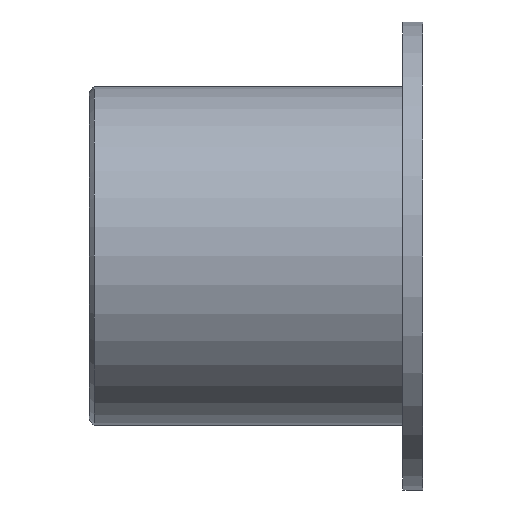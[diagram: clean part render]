
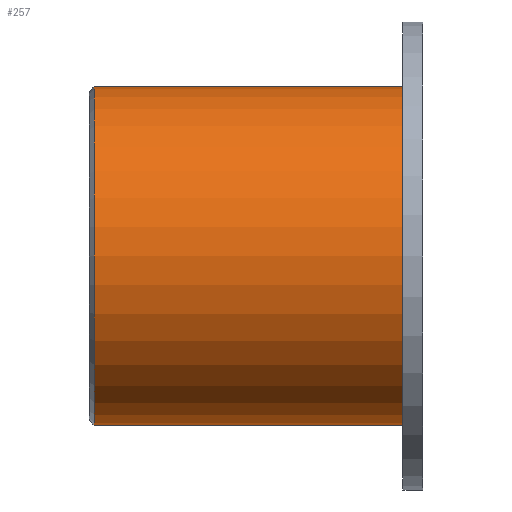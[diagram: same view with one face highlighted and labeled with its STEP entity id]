
A CAD part, front view. The second image highlights one B-rep face of the part: STEP entity #257.
In plain terms, the highlighted cylindrical face has radius 17 mm (diameter 34 mm), a full revolution.
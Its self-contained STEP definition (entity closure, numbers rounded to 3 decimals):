
#34=CYLINDRICAL_SURFACE('',#279,17.);
#47=FACE_BOUND('',#79,.T.);
#64=FACE_OUTER_BOUND('',#78,.T.);
#78=EDGE_LOOP('',(#191));
#79=EDGE_LOOP('',(#192));
#106=CIRCLE('',#277,17.);
#108=CIRCLE('',#280,17.);
#131=VERTEX_POINT('',#414);
#133=VERTEX_POINT('',#419);
#156=EDGE_CURVE('',#131,#131,#106,.T.);
#158=EDGE_CURVE('',#133,#133,#108,.T.);
#191=ORIENTED_EDGE('',*,*,#158,.T.);
#192=ORIENTED_EDGE('',*,*,#156,.F.);
#257=ADVANCED_FACE('',(#64,#47),#34,.T.);
#277=AXIS2_PLACEMENT_3D('',#415,#322,#323);
#279=AXIS2_PLACEMENT_3D('',#418,#326,#327);
#280=AXIS2_PLACEMENT_3D('',#420,#328,#329);
#322=DIRECTION('center_axis',(-1.,0.,0.));
#323=DIRECTION('ref_axis',(0.,0.,-1.));
#326=DIRECTION('center_axis',(1.,0.,0.));
#327=DIRECTION('ref_axis',(0.,0.,-1.));
#328=DIRECTION('center_axis',(-1.,0.,0.));
#329=DIRECTION('ref_axis',(0.,0.,-1.));
#414=CARTESIAN_POINT('',(0.5,0.,17.));
#415=CARTESIAN_POINT('Origin',(0.5,0.,0.));
#418=CARTESIAN_POINT('Origin',(0.,0.,0.));
#419=CARTESIAN_POINT('',(31.5,0.,17.));
#420=CARTESIAN_POINT('Origin',(31.5,0.,0.));
